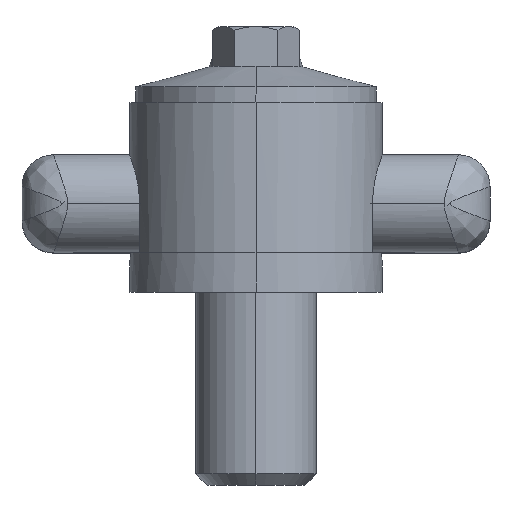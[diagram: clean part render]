
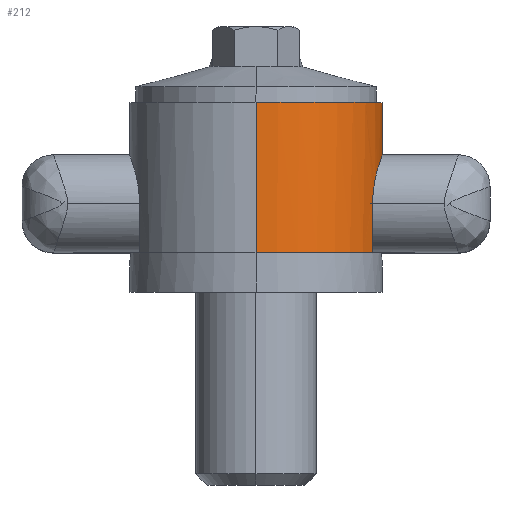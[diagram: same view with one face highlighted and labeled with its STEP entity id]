
A CAD part, top view. The second image highlights one B-rep face of the part: STEP entity #212.
In plain terms, the highlighted cylindrical face has radius 40 mm (diameter 80 mm), a partial arc.
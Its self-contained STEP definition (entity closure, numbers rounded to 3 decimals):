
#33 = CARTESIAN_POINT ( 'NONE',  ( 38.267, 38.251, -11.669 ) ) ;
#36 = CARTESIAN_POINT ( 'NONE',  ( 38.065, 37.48, -12.304 ) ) ;
#37 = CARTESIAN_POINT ( 'NONE',  ( 37.779, 36.226, -13.147 ) ) ;
#38 = CARTESIAN_POINT ( 'NONE',  ( 37.686, 35.789, -13.41 ) ) ;
#40 = CARTESIAN_POINT ( 'NONE',  ( 36.961, 30.568, -15.294 ) ) ;
#41 = CARTESIAN_POINT ( 'NONE',  ( 36.875, 28.517, -15.5 ) ) ;
#42 = CARTESIAN_POINT ( 'NONE',  ( 37.207, 33.045, -14.69 ) ) ;
#43 = CARTESIAN_POINT ( 'NONE',  ( 36.875, 28., -15.5 ) ) ;
#44 = CARTESIAN_POINT ( 'NONE',  ( 36.929, 30.057, -15.372 ) ) ;
#45 = CARTESIAN_POINT ( 'NONE',  ( 37.512, 34.896, -13.89 ) ) ;
#47 = CARTESIAN_POINT ( 'NONE',  ( 37.086, 32.079, -14.989 ) ) ;
#49 = CARTESIAN_POINT ( 'NONE',  ( 36.886, 29.032, -15.474 ) ) ;
#51 = CARTESIAN_POINT ( 'NONE',  ( 37.43, 34.441, -14.108 ) ) ;
#161 = VERTEX_POINT ( 'NONE', #2379 ) ;
#164 = VERTEX_POINT ( 'NONE', #2376 ) ;
#167 = ORIENTED_EDGE ( 'NONE', *, *, #203, .T. ) ;
#168 = VERTEX_POINT ( 'NONE', #2374 ) ;
#169 = ORIENTED_EDGE ( 'NONE', *, *, #241, .F. ) ;
#170 = VERTEX_POINT ( 'NONE', #2373 ) ;
#171 = ORIENTED_EDGE ( 'NONE', *, *, #219, .F. ) ;
#194 = ORIENTED_EDGE ( 'NONE', *, *, #204, .F. ) ;
#196 = VERTEX_POINT ( 'NONE', #2425 ) ;
#201 = VERTEX_POINT ( 'NONE', #2475 ) ;
#203 = EDGE_CURVE ( 'NONE', #161, #196, #2474, .T. ) ;
#204 = EDGE_CURVE ( 'NONE', #201, #196, #2470, .T. ) ;
#210 = EDGE_CURVE ( 'NONE', #161, #164, #2455, .T. ) ;
#212 = ADVANCED_FACE ( 'NONE', ( #2456 ), #2450, .T. ) ;
#214 = EDGE_LOOP ( 'NONE', ( #215, #167, #194, #5326, #253, #255, #169, #171 ) ) ;
#215 = ORIENTED_EDGE ( 'NONE', *, *, #210, .F. ) ;
#219 = EDGE_CURVE ( 'NONE', #164, #170, #2483, .T. ) ;
#241 = EDGE_CURVE ( 'NONE', #170, #168, #2569, .T. ) ;
#249 = EDGE_CURVE ( 'NONE', #251, #254, #395, .T. ) ;
#251 = VERTEX_POINT ( 'NONE', #2548 ) ;
#252 = EDGE_CURVE ( 'NONE', #254, #168, #2546, .T. ) ;
#253 = ORIENTED_EDGE ( 'NONE', *, *, #249, .T. ) ;
#254 = VERTEX_POINT ( 'NONE', #2603 ) ;
#255 = ORIENTED_EDGE ( 'NONE', *, *, #252, .T. ) ;
#340 = CARTESIAN_POINT ( 'NONE',  ( 36.875, 29.035, 15.5 ) ) ;
#341 = CARTESIAN_POINT ( 'NONE',  ( 37.092, 32.039, 14.973 ) ) ;
#342 = CARTESIAN_POINT ( 'NONE',  ( 37.28, 33.5, 14.5 ) ) ;
#343 = CARTESIAN_POINT ( 'NONE',  ( 38.368, 38.604, 11.316 ) ) ;
#344 = CARTESIAN_POINT ( 'NONE',  ( 37.211, 33.017, 14.674 ) ) ;
#345 = CARTESIAN_POINT ( 'NONE',  ( 37.041, 31.545, 15.098 ) ) ;
#346 = CARTESIAN_POINT ( 'NONE',  ( 38.569, 39.311, 10.609 ) ) ;
#347 = CARTESIAN_POINT ( 'NONE',  ( 37.68, 35.789, 13.439 ) ) ;
#351 = CARTESIAN_POINT ( 'NONE',  ( 36.918, 30.05, 15.397 ) ) ;
#352 = CARTESIAN_POINT ( 'NONE',  ( 37.504, 34.903, 13.915 ) ) ;
#354 = CARTESIAN_POINT ( 'NONE',  ( 37.966, 37.046, 12.596 ) ) ;
#355 = CARTESIAN_POINT ( 'NONE',  ( 38.066, 37.455, 12.293 ) ) ;
#356 = CARTESIAN_POINT ( 'NONE',  ( 38.266, 38.233, 11.653 ) ) ;
#364 = CARTESIAN_POINT ( 'NONE',  ( 38.963, 40.588, 9.059 ) ) ;
#365 = CARTESIAN_POINT ( 'NONE',  ( 38.866, 40.285, 9.464 ) ) ;
#366 = CARTESIAN_POINT ( 'NONE',  ( 39.243, 41.436, 7.794 ) ) ;
#367 = CARTESIAN_POINT ( 'NONE',  ( 39.797, 42.968, 4.059 ) ) ;
#368 = CARTESIAN_POINT ( 'NONE',  ( 39.41, 41.912, 6.907 ) ) ;
#369 = CARTESIAN_POINT ( 'NONE',  ( 39.685, 42.668, 5.035 ) ) ;
#370 = CARTESIAN_POINT ( 'NONE',  ( 39.621, 42.496, 5.511 ) ) ;
#371 = CARTESIAN_POINT ( 'NONE',  ( 38.669, 39.647, 10.239 ) ) ;
#372 = CARTESIAN_POINT ( 'NONE',  ( 39.845, 43.095, 3.558 ) ) ;
#377 = CARTESIAN_POINT ( 'NONE',  ( 40., 43.501, -0.493 ) ) ;
#381 = CARTESIAN_POINT ( 'NONE',  ( 40., 43.499, 1.041 ) ) ;
#384 = CARTESIAN_POINT ( 'NONE',  ( 39.96, 43.397, 2.054 ) ) ;
#395 = B_SPLINE_CURVE_WITH_KNOTS ( 'NONE', 3,
 ( #396, #340, #351, #345, #341, #344, #342, #352, #347, #354, #355, #356, #343, #346, #371, #365, #364, #366, #368, #370, #369, #367, #372, #384, #381, #377, #407, #414, #412, #410, #409, #406, #404, #402, #401, #400, #399, #33, #36, #37, #38, #45, #51, #42, #47, #40, #44, #49, #41, #43 ),
 .UNSPECIFIED., .F., .F.,
 ( 4, 2, 2, 2, 2, 2, 2, 2, 2, 2, 2, 2, 2, 2, 2, 2, 2, 2, 2, 2, 2, 2, 2, 2, 4 ),
 ( 0., 0.003, 0.005, 0.006, 0.009, 0.011, 0.012, 0.014, 0.015, 0.018, 0.02, 0.021, 0.024, 0.026, 0.028, 0.031, 0.034, 0.035, 0.037, 0.04, 0.041, 0.043, 0.046, 0.047, 0.049 ),
 .UNSPECIFIED. ) ;
#396 = CARTESIAN_POINT ( 'NONE',  ( 36.875, 28., 15.5 ) ) ;
#399 = CARTESIAN_POINT ( 'NONE',  ( 38.571, 39.316, -10.604 ) ) ;
#400 = CARTESIAN_POINT ( 'NONE',  ( 38.672, 39.657, -10.228 ) ) ;
#401 = CARTESIAN_POINT ( 'NONE',  ( 38.871, 40.299, -9.447 ) ) ;
#402 = CARTESIAN_POINT ( 'NONE',  ( 38.967, 40.599, -9.043 ) ) ;
#404 = CARTESIAN_POINT ( 'NONE',  ( 39.243, 41.438, -7.791 ) ) ;
#406 = CARTESIAN_POINT ( 'NONE',  ( 39.412, 41.916, -6.902 ) ) ;
#407 = CARTESIAN_POINT ( 'NONE',  ( 39.991, 43.476, -1.009 ) ) ;
#409 = CARTESIAN_POINT ( 'NONE',  ( 39.696, 42.703, -5.011 ) ) ;
#410 = CARTESIAN_POINT ( 'NONE',  ( 39.808, 42.999, -4.039 ) ) ;
#412 = CARTESIAN_POINT ( 'NONE',  ( 39.922, 43.299, -2.541 ) ) ;
#414 = CARTESIAN_POINT ( 'NONE',  ( 39.952, 43.375, -2.035 ) ) ;
#1370 = DIRECTION ( 'NONE',  ( 0., 1., 0. ) ) ;
#1371 = VECTOR ( 'NONE', #1370, 1000. ) ;
#2373 = CARTESIAN_POINT ( 'NONE',  ( 0., 12.5, -40. ) ) ;
#2374 = CARTESIAN_POINT ( 'NONE',  ( 36.875, 12.5, -15.5 ) ) ;
#2376 = CARTESIAN_POINT ( 'NONE',  ( 0., 60., -40. ) ) ;
#2379 = CARTESIAN_POINT ( 'NONE',  ( 0., 60., 40. ) ) ;
#2425 = CARTESIAN_POINT ( 'NONE',  ( 0., 12.5, 40. ) ) ;
#2449 = CARTESIAN_POINT ( 'NONE',  ( 0., 84., 0. ) ) ;
#2450 = CYLINDRICAL_SURFACE ( 'NONE', #2491, 40. ) ;
#2451 = DIRECTION ( 'NONE',  ( 0., 0., 1. ) ) ;
#2452 = DIRECTION ( 'NONE',  ( 0., 1., 0. ) ) ;
#2453 = CARTESIAN_POINT ( 'NONE',  ( 0., 60., 0. ) ) ;
#2454 = AXIS2_PLACEMENT_3D ( 'NONE', #2453, #2452, #2451 ) ;
#2455 = CIRCLE ( 'NONE', #2454, 40. ) ;
#2456 = FACE_OUTER_BOUND ( 'NONE', #214, .T. ) ;
#2466 = DIRECTION ( 'NONE',  ( 0., 0., -1. ) ) ;
#2467 = DIRECTION ( 'NONE',  ( 0., -1., 0. ) ) ;
#2468 = CARTESIAN_POINT ( 'NONE',  ( 0., 12.5, 0. ) ) ;
#2469 = AXIS2_PLACEMENT_3D ( 'NONE', #2468, #2467, #2466 ) ;
#2470 = CIRCLE ( 'NONE', #2469, 40. ) ;
#2471 = DIRECTION ( 'NONE',  ( 0., -1., 0. ) ) ;
#2472 = VECTOR ( 'NONE', #2471, 1000. ) ;
#2473 = CARTESIAN_POINT ( 'NONE',  ( 0., 84., 40. ) ) ;
#2474 = LINE ( 'NONE', #2473, #2472 ) ;
#2475 = CARTESIAN_POINT ( 'NONE',  ( 36.875, 12.5, 15.5 ) ) ;
#2480 = DIRECTION ( 'NONE',  ( 0., -1., 0. ) ) ;
#2481 = VECTOR ( 'NONE', #2480, 1000. ) ;
#2482 = CARTESIAN_POINT ( 'NONE',  ( 0., 84., -40. ) ) ;
#2483 = LINE ( 'NONE', #2482, #2481 ) ;
#2489 = DIRECTION ( 'NONE',  ( 0., 0., -1. ) ) ;
#2490 = DIRECTION ( 'NONE',  ( 0., -1., 0. ) ) ;
#2491 = AXIS2_PLACEMENT_3D ( 'NONE', #2449, #2490, #2489 ) ;
#2543 = DIRECTION ( 'NONE',  ( 0., -1., 0. ) ) ;
#2544 = VECTOR ( 'NONE', #2543, 1000. ) ;
#2545 = CARTESIAN_POINT ( 'NONE',  ( 36.875, 84., -15.5 ) ) ;
#2546 = LINE ( 'NONE', #2545, #2544 ) ;
#2548 = CARTESIAN_POINT ( 'NONE',  ( 36.875, 28., 15.5 ) ) ;
#2565 = DIRECTION ( 'NONE',  ( 0., 0., -1. ) ) ;
#2566 = DIRECTION ( 'NONE',  ( 0., -1., 0. ) ) ;
#2567 = CARTESIAN_POINT ( 'NONE',  ( 0., 12.5, 0. ) ) ;
#2568 = AXIS2_PLACEMENT_3D ( 'NONE', #2567, #2566, #2565 ) ;
#2569 = CIRCLE ( 'NONE', #2568, 40. ) ;
#2603 = CARTESIAN_POINT ( 'NONE',  ( 36.875, 28., -15.5 ) ) ;
#4862 = CARTESIAN_POINT ( 'NONE',  ( 36.875, 84., 15.5 ) ) ;
#5135 = LINE ( 'NONE', #4862, #1371 ) ;
#5325 = EDGE_CURVE ( 'NONE', #201, #251, #5135, .T. ) ;
#5326 = ORIENTED_EDGE ( 'NONE', *, *, #5325, .T. ) ;
